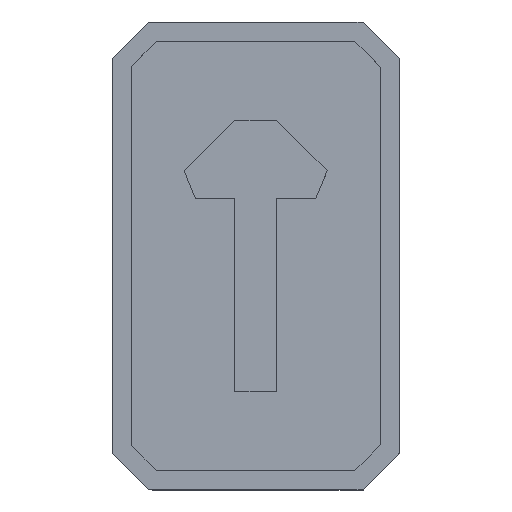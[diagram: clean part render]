
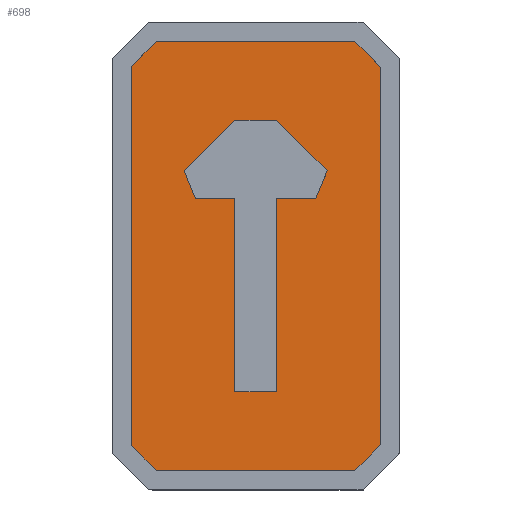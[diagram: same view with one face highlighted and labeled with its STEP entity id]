
A CAD part, top view. The second image highlights one B-rep face of the part: STEP entity #698.
In plain terms, the highlighted planar face has unit normal (0, 0, 1).
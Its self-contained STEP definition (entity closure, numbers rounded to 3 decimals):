
#38=FACE_OUTER_BOUND('',#78,.T.);
#78=EDGE_LOOP('',(#542,#543,#544,#545,#546,#547,#548,#549));
#129=LINE('',#1016,#225);
#133=LINE('',#1024,#229);
#136=LINE('',#1030,#232);
#139=LINE('',#1036,#235);
#142=LINE('',#1042,#238);
#145=LINE('',#1048,#241);
#148=LINE('',#1054,#244);
#151=LINE('',#1059,#247);
#225=VECTOR('',#829,10.);
#229=VECTOR('',#835,10.);
#232=VECTOR('',#840,10.);
#235=VECTOR('',#845,10.);
#238=VECTOR('',#850,10.);
#241=VECTOR('',#855,10.);
#244=VECTOR('',#860,10.);
#247=VECTOR('',#865,10.);
#311=VERTEX_POINT('',#1014);
#312=VERTEX_POINT('',#1015);
#315=VERTEX_POINT('',#1023);
#317=VERTEX_POINT('',#1029);
#319=VERTEX_POINT('',#1035);
#321=VERTEX_POINT('',#1041);
#323=VERTEX_POINT('',#1047);
#325=VERTEX_POINT('',#1053);
#383=EDGE_CURVE('',#311,#312,#129,.T.);
#387=EDGE_CURVE('',#312,#315,#133,.T.);
#390=EDGE_CURVE('',#315,#317,#136,.T.);
#393=EDGE_CURVE('',#317,#319,#139,.T.);
#396=EDGE_CURVE('',#319,#321,#142,.T.);
#399=EDGE_CURVE('',#321,#323,#145,.T.);
#402=EDGE_CURVE('',#323,#325,#148,.T.);
#405=EDGE_CURVE('',#325,#311,#151,.T.);
#542=ORIENTED_EDGE('',*,*,#383,.T.);
#543=ORIENTED_EDGE('',*,*,#387,.T.);
#544=ORIENTED_EDGE('',*,*,#390,.T.);
#545=ORIENTED_EDGE('',*,*,#393,.T.);
#546=ORIENTED_EDGE('',*,*,#396,.T.);
#547=ORIENTED_EDGE('',*,*,#399,.T.);
#548=ORIENTED_EDGE('',*,*,#402,.T.);
#549=ORIENTED_EDGE('',*,*,#405,.T.);
#659=PLANE('',#752);
#698=ADVANCED_FACE('',(#38),#659,.T.);
#752=AXIS2_PLACEMENT_3D('',#1067,#872,#873);
#829=DIRECTION('',(-0.707,-0.707,0.));
#835=DIRECTION('',(0.,-1.,0.));
#840=DIRECTION('',(0.707,-0.707,0.));
#845=DIRECTION('',(1.,0.,0.));
#850=DIRECTION('',(0.707,0.707,0.));
#855=DIRECTION('',(0.,1.,0.));
#860=DIRECTION('',(-0.707,0.707,0.));
#865=DIRECTION('',(-1.,0.,0.));
#872=DIRECTION('center_axis',(0.,0.,
1.));
#873=DIRECTION('ref_axis',(1.,0.,0.));
#1014=CARTESIAN_POINT('',(2.949,23.077,7.));
#1015=CARTESIAN_POINT('',(1.693,21.822,7.));
#1016=CARTESIAN_POINT('',(-10.284,9.845,7.));
#1023=CARTESIAN_POINT('',(1.693,2.487,7.));
#1024=CARTESIAN_POINT('',(1.693,-14.993,7.));
#1029=CARTESIAN_POINT('',(2.949,1.232,7.));
#1030=CARTESIAN_POINT('',(12.658,-8.477,7.));
#1035=CARTESIAN_POINT('',(13.07,1.232,7.));
#1036=CARTESIAN_POINT('',(10.575,1.232,7.));
#1041=CARTESIAN_POINT('',(14.367,2.529,7.));
#1042=CARTESIAN_POINT('',(4.045,-7.793,7.));
#1047=CARTESIAN_POINT('',(14.367,21.78,7.));
#1048=CARTESIAN_POINT('',(14.367,-5.346,7.));
#1053=CARTESIAN_POINT('',(13.07,23.077,7.));
#1054=CARTESIAN_POINT('',(25.71,10.437,7.));
#1059=CARTESIAN_POINT('',(5.515,23.077,7.));
#1067=CARTESIAN_POINT('Origin',(14.419,18.468,7.));
